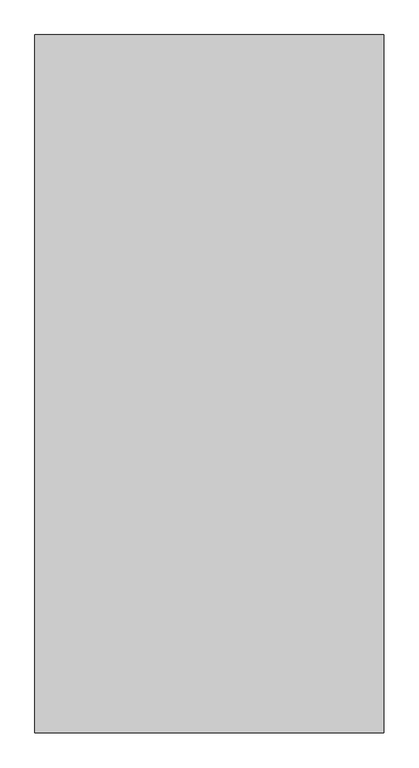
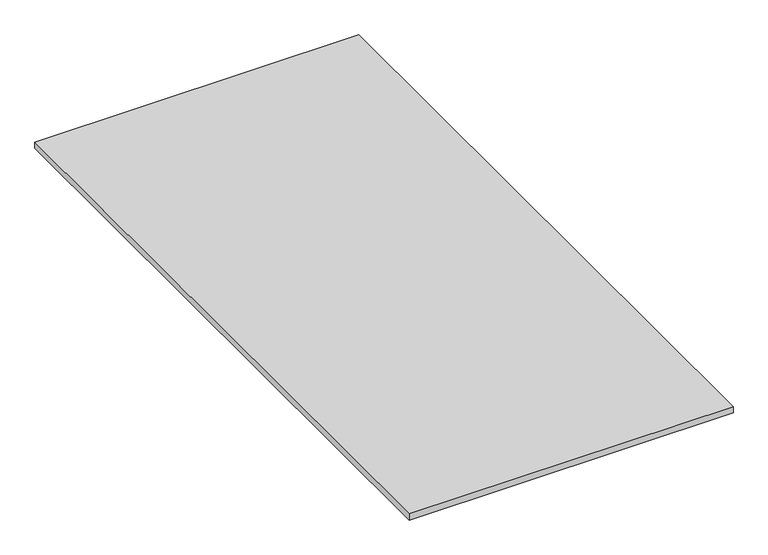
"""IFC4 building model written with IfcOpenShell, lengths in millimetres: proxy geometry, MODELO3D_PLAFON_HYDRA 2.3dm."""

from ifc_helpers import new_model, si_unit, origin, origin_with_axes, place, context, project, spatial, polyline, outline, extrude, source, transform, mapped, element, save


def generic_models_4f1b10d2(model_context):
    return source(origin(), model_context, "Body", "SweptSolid", [
        extrude(outline(polyline([(-2997.027762, 336.632562), (-2997.027762, 1536.632562), (-2397.027762, 1536.632562), (-2397.027762, 336.632562), (-2997.027762, 336.632562)])), origin_with_axes(), (0.0, 0.0, 1.0), 12.0),
    ])


if __name__ == "__main__":
    model = new_model("IFC4")
    model_context = context("Model", 3, world=origin())
    ifc_project = project(units=[si_unit("LENGTHUNIT", "METRE", prefix="MILLI")], contexts=[model_context])
    site = spatial("IfcSite", under=ifc_project)
    building = spatial("IfcBuilding", under=site)
    placement = place(None, origin())
    generic_models_shape = generic_models_4f1b10d2(model_context)
    element("IfcBuildingElementProxy", 1, Name="MODELO3D_PLAFON_HYDRA 2.3dm", ObjectType="MODELO3D_PLAFON_HYDRA 2.3dm", at=placement, inside=building, context=model_context, shape_type="MappedRepresentation", body=[
        mapped(generic_models_shape, transform((0.0, 0.0, 0.0), x_axis=(1.0, 0.0, 0.0), y_axis=(0.0, 1.0, 0.0), z_axis=(0.0, 0.0, 1.0))),
    ])
    save(model, "model.ifc")
